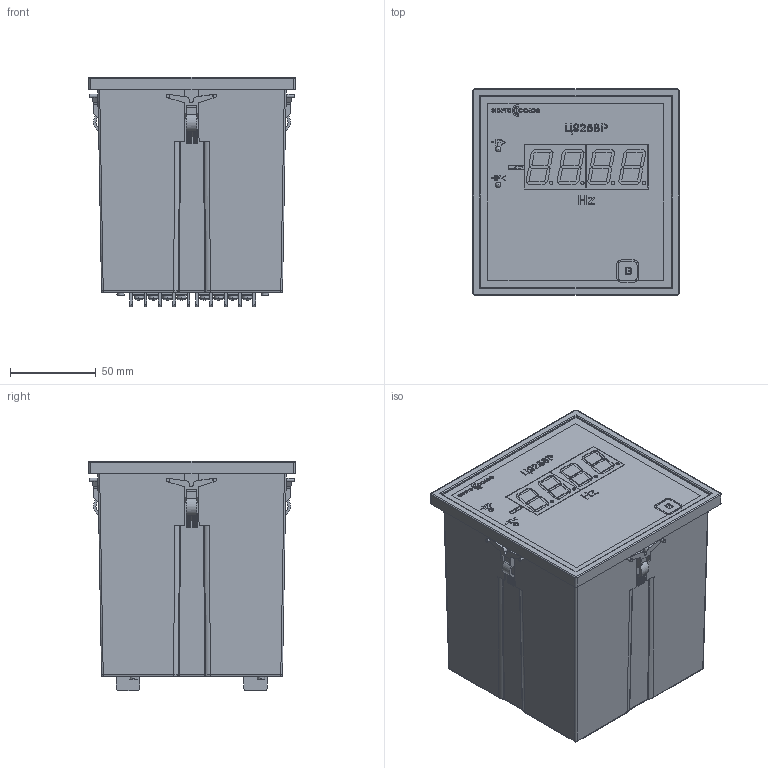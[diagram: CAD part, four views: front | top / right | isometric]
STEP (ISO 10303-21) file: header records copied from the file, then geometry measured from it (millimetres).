
FILE_DESCRIPTION (( 'STEP AP214' ), '1' );
FILE_NAME ('c9258r_120x120x138.STEP', '2025-01-15T13:13:21', ( '' ), ( '' ), 'SwSTEP 2.0', 'SolidWorks 2021', '' );
FILE_SCHEMA (( 'AUTOMOTIVE_DESIGN' ));
Length unit declared in the file: millimetre
Products named in the file (18): 鼁闉罻 DG35x4; Êîïèÿ (2) Êîïèÿ FYD-8021^c9258r_step; Êîïèÿ Ñêîáà DG35^ñáîðêà DG35x4; slotted cheese head screw_iso_ISO 1207 - M2.5 x 10 - 10N; Êîïèÿ îñíîâàíèå DG35^ñáîðêà DG35x4; Äåòàëü4^Êîïèÿ Êîïèÿ FYD-8021_c9258r_step; green-led; Êîïèÿ Êîïèÿ FYD-8021^c9258r_step; pan head cross recess screw_iso_ISO 7045 - M3 x 4 - Z --- 4N; body_elc_120x120x138; Êîïèÿ øàéáà DG35^ñáîðêà DG35x4; Ñêîáà; Êîïèÿ back-label-c92xxR^c9258r_step; round led(no glow)_step; Êîïèÿ front-panel^c9258r_step; Äåòàëü4^Êîïèÿ (2) Êîïèÿ FYD-8021_c9258r_step; c9258r_120x120x138; 鼁闉罻-FYD-8021
Assembly tree (36 placements, depth 3):
  Äåòàëü4^Êîïèÿ Êîïèÿ FYD-8021_c9258r_step
  Äåòàëü4^Êîïèÿ (2) Êîïèÿ FYD-8021_c9258r_step
  c9258r_120x120x138
    body_elc_120x120x138
    Êîïèÿ front-panel^c9258r_step
    Ñêîáà  x4
    Êîïèÿ (2) Êîïèÿ FYD-8021^c9258r_step
      鼁闉罻-FYD-8021
    Êîïèÿ Êîïèÿ FYD-8021^c9258r_step
      鼁闉罻-FYD-8021
    green-led  x2
    round led(no glow)_step  x2
    鼁闉罻 DG35x4  x4
      Êîïèÿ îñíîâàíèå DG35^ñáîðêà DG35x4
      Êîïèÿ Ñêîáà DG35^ñáîðêà DG35x4
      pan head cross recess screw_iso_ISO 7045 - M3 x 4 - Z --- 4N
      Êîïèÿ øàéáà DG35^ñáîðêà DG35x4
    slotted cheese head screw_iso_ISO 1207 - M2.5 x 10 - 10N  x4
    Êîïèÿ back-label-c92xxR^c9258r_step
Bounding box: 120 x 120 x 133.45 mm (x, y, z)
Volume: 1370258.5 mm3; surface area: 149315.8 mm2
Topology: 145 solids, 145 shells, 4976 faces, 12258 edges, 7660 vertices
Faces by surface type: plane 2681, cylinder 972, bspline 953, cone 184, sphere 110, torus 76
Entity records: 83221 total; most frequent: CARTESIAN_POINT 29823, ORIENTED_EDGE 9262, DIRECTION 7692, EDGE_CURVE 4631, VECTOR 3174, LINE 3174, VERTEX_POINT 3036, AXIS2_PLACEMENT_3D 2259
